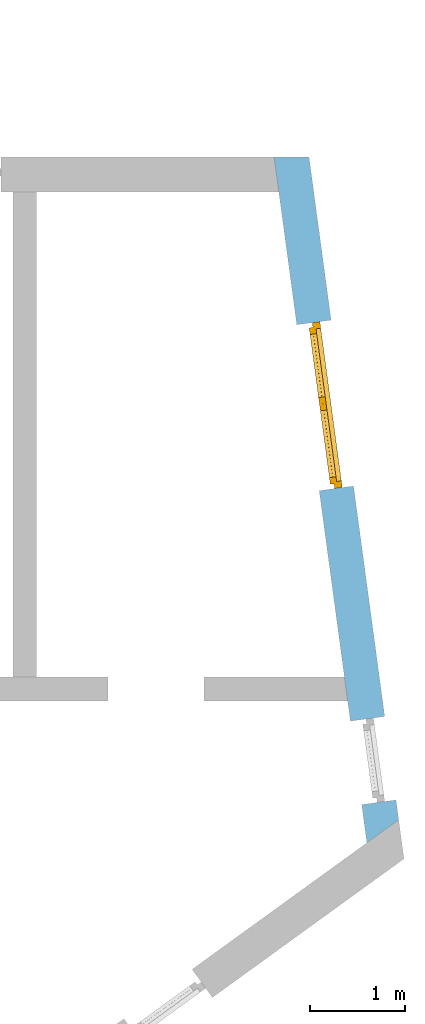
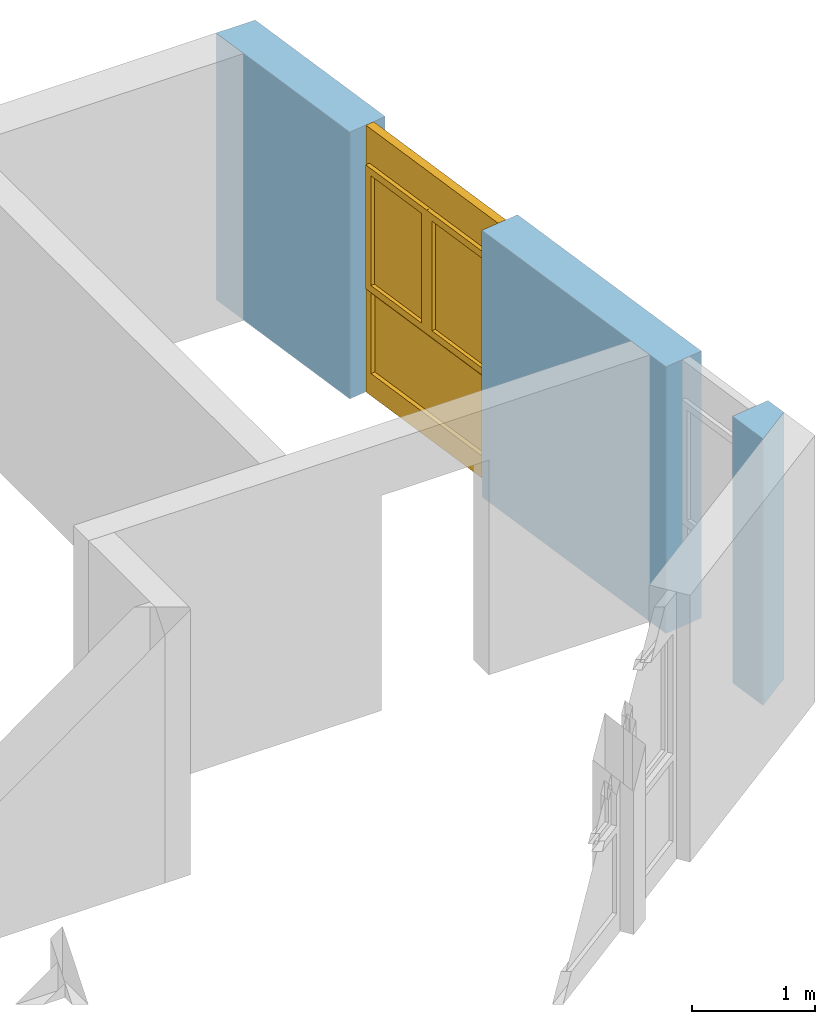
# One storey, part 40 of 42: 1 window, 2 openings, plus 1 element that does not belong to this part.
"""IFC2X3 building model written with IfcOpenShell, lengths in millimetres."""

from ifc_helpers import new_model, entity, si_unit, converted_unit, frame, frame_2d, origin, origin_with_axes, place, context, subcontext, project, spatial, polyline, rectangle, outline, extrude, faceted_brep, material, layer, layer_set, layer_usage, type_object, element, fill, save


model = new_model("IFC2X3")

# Units and contexts
model_context = context("Model", 3, precision=1e-05, world=origin())
body_context = subcontext(model_context, "Body", "Model", "MODEL_VIEW")
ifc_project = project(units=[si_unit("LENGTHUNIT", "METRE", prefix="MILLI"), converted_unit("PLANEANGLEUNIT", "DEGREE", entity("IfcPlaneAngleMeasure", 0.0174532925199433), si_unit("PLANEANGLEUNIT", "RADIAN"), dimensions=[0, 0, 0, 0, 0, 0, 0]), si_unit("AREAUNIT", "SQUARE_METRE"), si_unit("VOLUMEUNIT", "CUBIC_METRE")], contexts=[model_context])

# Building, storey
building_placement = place(None, origin())
building = spatial("IfcBuilding", under=ifc_project, at=building_placement, Name="Gebäude", CompositionType="ELEMENT")
storey_placement = place(building_placement, frame((0.0, 0.0, 2730.0), z_axis=(0.0, 0.0, 1.0), x_axis=(1.0, 0.0, 0.0)))
storey = spatial("IfcBuildingStorey", under=building, at=storey_placement, Name="OG.- Grundriss", CompositionType="ELEMENT", Elevation=2730.0)

# Wall, openings, window
ifc_material_1 = material(Name="Poroton")
ifc_layer = layer(ifc_material_1, 365.0000000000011)
ifc_layer_set = layer_set([ifc_layer])
ifc_layer_usage = layer_usage(ifc_layer_set, "AXIS2", "POSITIVE", 0.0)
wall_placement = place(storey_placement, frame((185447.2761832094, 129305.31365621, 0.0), z_axis=(0.0, 0.0, 1.0), x_axis=(-0.1340451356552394, 0.9909752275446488, 0.0)))
wall = element("IfcWallStandardCase", 1, at=wall_placement, inside=storey, material=ifc_layer_usage, Name="<Unnamed Element>", context=body_context, shape_type="SweptSolid", body=[
    extrude(outline(polyline([(0.0, 0.0), (7033.045713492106, 1.13686837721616e-13), (7082.417759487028, 365.0000000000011), (-195.7205517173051, 364.9999999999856), (0.0, 0.0)])), origin_with_axes(), (0.0, 0.0, 1.0), 2650.0),
])
opening_1_placement = place(wall_placement, frame((3543.045713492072, 5.684341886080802e-12, 0.0), z_axis=(0.0, 1.0, 0.0), x_axis=(0.0, 0.0, 1.0)))
opening_1 = element("IfcOpeningElement", 2, at=opening_1_placement, cuts=wall, Name="Fensteröffnung", ObjectType="Opening", context=body_context, shape_type="SweptSolid", body=[
    extrude(rectangle(XDim=2650.0, YDim=1760.0, at=frame_2d((1325.0, 880.0), x_axis=(1.0, 0.0))), origin_with_axes(), (0.0, 0.0, 1.0), 365.0),
])
opening_2_placement = place(wall_placement, frame((210.8363435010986, 8.885336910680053e-12, 0.0), z_axis=(0.0, 1.0, 0.0), x_axis=(0.0, 0.0, 1.0)))
element("IfcOpeningElement", 3, at=opening_2_placement, cuts=wall, Name="Fensteröffnung", ObjectType="Opening", context=body_context, shape_type="SweptSolid", body=[
    extrude(rectangle(XDim=2650.0, YDim=885.0000000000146, at=frame_2d((1325.0, 442.5000000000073), x_axis=(1.0, 0.0))), origin_with_axes(), (0.0, 0.0, 1.0), 365.0),
])
ifc_material_2 = material()
window_style = type_object("IfcWindowStyle", Name="Fenster", ConstructionType="NOTDEFINED", OperationType="USERDEFINED", ParameterTakesPrecedence=False, Sizeable=False)
window_placement = place(opening_1_placement, frame((0.0, 0.0, 0.0), z_axis=(1.0, 0.0, 0.0), x_axis=(0.0, 1.0, 0.0)))
window = element("IfcWindow", 4, at=window_placement, inside=storey, type_object=window_style, material=ifc_material_2, Name="Fenster", OverallHeight=2650.0, OverallWidth=1760.0, context=body_context, shape_type="Brep", body=[
    faceted_brep([(1.243449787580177e-13, 200.0000000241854, 2650.0), (1.243449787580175e-13, 200.0000000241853, -2.449293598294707e-15), (69.99999999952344, 200.0000000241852, -2.449293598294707e-15), (69.99999999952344, 200.0000000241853, 2650.0), (0.0, 120.0000000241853, 2.449293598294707e-15), (2.429691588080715e-28, 120.0000000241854, 2650.0), (69.99999999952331, 120.0000000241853, 2650.0), (69.99999999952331, 120.0000000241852, 2.449293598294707e-15), (1.243449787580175e-13, 200.0000000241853, -2.449293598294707e-15), (1.243449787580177e-13, 200.0000000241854, 2650.0), (2.429691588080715e-28, 120.0000000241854, 2650.0), (0.0, 120.0000000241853, 2.449293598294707e-15), (69.99999999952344, 200.0000000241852, -2.449293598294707e-15), (1.243449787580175e-13, 200.0000000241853, -2.449293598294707e-15), (0.0, 120.0000000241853, 2.449293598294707e-15), (69.99999999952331, 120.0000000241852, 2.449293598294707e-15), (69.99999999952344, 200.0000000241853, 2650.0), (69.99999999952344, 200.0000000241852, -2.449293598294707e-15), (69.99999999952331, 120.0000000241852, 2.449293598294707e-15), (69.99999999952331, 120.0000000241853, 2650.0), (1.243449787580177e-13, 200.0000000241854, 2650.0), (69.99999999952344, 200.0000000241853, 2650.0), (69.99999999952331, 120.0000000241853, 2650.0), (2.429691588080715e-28, 120.0000000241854, 2650.0)], [[[0, 1, 2, 3]], [[4, 5, 6, 7]], [[8, 9, 10, 11]], [[12, 13, 14, 15]], [[16, 17, 18, 19]], [[20, 21, 22, 23]]], orient=[[False], [False], [False], [False], [False], [False]]),
    faceted_brep([(1690.000000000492, 200.0000000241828, 2650.0), (1690.000000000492, 200.0000000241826, -2.449293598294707e-15), (1760.000000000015, 200.0000000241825, -2.449293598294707e-15), (1760.000000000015, 200.0000000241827, 2650.0), (1690.000000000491, 120.0000000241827, 2.449293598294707e-15), (1690.000000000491, 120.0000000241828, 2650.0), (1760.000000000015, 120.0000000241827, 2650.0), (1760.000000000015, 120.0000000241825, 2.449293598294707e-15), (1690.000000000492, 200.0000000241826, -2.449293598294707e-15), (1690.000000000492, 200.0000000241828, 2650.0), (1690.000000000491, 120.0000000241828, 2650.0), (1690.000000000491, 120.0000000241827, 2.449293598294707e-15), (1760.000000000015, 200.0000000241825, -2.449293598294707e-15), (1690.000000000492, 200.0000000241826, -2.449293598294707e-15), (1690.000000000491, 120.0000000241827, 2.449293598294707e-15), (1760.000000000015, 120.0000000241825, 2.449293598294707e-15), (1760.000000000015, 200.0000000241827, 2650.0), (1760.000000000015, 200.0000000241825, -2.449293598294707e-15), (1760.000000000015, 120.0000000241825, 2.449293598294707e-15), (1760.000000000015, 120.0000000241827, 2650.0), (1690.000000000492, 200.0000000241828, 2650.0), (1760.000000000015, 200.0000000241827, 2650.0), (1760.000000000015, 120.0000000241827, 2650.0), (1690.000000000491, 120.0000000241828, 2650.0)], [[[0, 1, 2, 3]], [[4, 5, 6, 7]], [[8, 9, 10, 11]], [[12, 13, 14, 15]], [[16, 17, 18, 19]], [[20, 21, 22, 23]]], orient=[[False], [False], [False], [False], [False], [False]]),
    faceted_brep([(69.99999999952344, 200.0000000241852, 220.0), (69.99999999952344, 200.0000000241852, -2.449293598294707e-15), (1690.000000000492, 200.0000000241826, -2.449293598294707e-15), (1690.000000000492, 200.0000000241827, 220.0), (69.99999999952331, 120.0000000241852, 2.449293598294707e-15), (69.99999999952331, 120.0000000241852, 220.0), (1690.000000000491, 120.0000000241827, 220.0), (1690.000000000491, 120.0000000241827, 2.449293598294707e-15), (69.99999999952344, 200.0000000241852, -2.449293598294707e-15), (69.99999999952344, 200.0000000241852, 220.0), (69.99999999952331, 120.0000000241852, 220.0), (69.99999999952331, 120.0000000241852, 2.449293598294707e-15), (1690.000000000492, 200.0000000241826, -2.449293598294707e-15), (69.99999999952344, 200.0000000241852, -2.449293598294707e-15), (69.99999999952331, 120.0000000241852, 2.449293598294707e-15), (1690.000000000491, 120.0000000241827, 2.449293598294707e-15), (1690.000000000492, 200.0000000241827, 220.0), (1690.000000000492, 200.0000000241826, -2.449293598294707e-15), (1690.000000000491, 120.0000000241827, 2.449293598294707e-15), (1690.000000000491, 120.0000000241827, 220.0), (69.99999999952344, 200.0000000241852, 220.0), (1690.000000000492, 200.0000000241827, 220.0), (1690.000000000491, 120.0000000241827, 220.0), (69.99999999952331, 120.0000000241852, 220.0)], [[[0, 1, 2, 3]], [[4, 5, 6, 7]], [[8, 9, 10, 11]], [[12, 13, 14, 15]], [[16, 17, 18, 19]], [[20, 21, 22, 23]]], orient=[[False], [False], [False], [False], [False], [False]]),
    faceted_brep([(69.99999999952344, 200.0000000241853, 2650.0), (69.99999999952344, 200.0000000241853, 2280.0), (1690.000000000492, 200.0000000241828, 2280.0), (1690.000000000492, 200.0000000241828, 2650.0), (69.99999999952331, 120.0000000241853, 2280.0), (69.99999999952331, 120.0000000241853, 2650.0), (1690.000000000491, 120.0000000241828, 2650.0), (1690.000000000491, 120.0000000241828, 2280.0), (69.99999999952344, 200.0000000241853, 2280.0), (69.99999999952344, 200.0000000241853, 2650.0), (69.99999999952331, 120.0000000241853, 2650.0), (69.99999999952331, 120.0000000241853, 2280.0), (1690.000000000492, 200.0000000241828, 2280.0), (69.99999999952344, 200.0000000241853, 2280.0), (69.99999999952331, 120.0000000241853, 2280.0), (1690.000000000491, 120.0000000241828, 2280.0), (1690.000000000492, 200.0000000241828, 2650.0), (1690.000000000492, 200.0000000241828, 2280.0), (1690.000000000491, 120.0000000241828, 2280.0), (1690.000000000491, 120.0000000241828, 2650.0), (69.99999999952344, 200.0000000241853, 2650.0), (1690.000000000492, 200.0000000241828, 2650.0), (1690.000000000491, 120.0000000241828, 2650.0), (69.99999999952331, 120.0000000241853, 2650.0)], [[[0, 1, 2, 3]], [[4, 5, 6, 7]], [[8, 9, 10, 11]], [[12, 13, 14, 15]], [[16, 17, 18, 19]], [[20, 21, 22, 23]]], orient=[[False], [False], [False], [False], [False], [False]]),
    faceted_brep([(69.99999999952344, 200.0000000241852, 1090.0), (69.99999999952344, 200.0000000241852, 1020.0), (1690.000000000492, 200.0000000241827, 1020.0), (1690.000000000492, 200.0000000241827, 1090.0), (69.99999999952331, 120.0000000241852, 1020.0), (69.99999999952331, 120.0000000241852, 1090.0), (1690.000000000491, 120.0000000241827, 1090.0), (1690.000000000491, 120.0000000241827, 1020.0), (69.99999999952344, 200.0000000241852, 1020.0), (69.99999999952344, 200.0000000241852, 1090.0), (69.99999999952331, 120.0000000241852, 1090.0), (69.99999999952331, 120.0000000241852, 1020.0), (1690.000000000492, 200.0000000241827, 1020.0), (69.99999999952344, 200.0000000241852, 1020.0), (69.99999999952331, 120.0000000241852, 1020.0), (1690.000000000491, 120.0000000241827, 1020.0), (1690.000000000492, 200.0000000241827, 1090.0), (1690.000000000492, 200.0000000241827, 1020.0), (1690.000000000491, 120.0000000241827, 1020.0), (1690.000000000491, 120.0000000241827, 1090.0), (69.99999999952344, 200.0000000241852, 1090.0), (1690.000000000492, 200.0000000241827, 1090.0), (1690.000000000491, 120.0000000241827, 1090.0), (69.99999999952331, 120.0000000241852, 1090.0)], [[[0, 1, 2, 3]], [[4, 5, 6, 7]], [[8, 9, 10, 11]], [[12, 13, 14, 15]], [[16, 17, 18, 19]], [[20, 21, 22, 23]]], orient=[[False], [False], [False], [False], [False], [False]]),
    faceted_brep([(69.99999999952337, 160.0000000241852, 220.0), (1690.000000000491, 160.0000000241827, 220.0), (1690.000000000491, 160.0000000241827, 1020.0), (69.99999999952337, 160.0000000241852, 1020.0), (69.99999999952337, 159.0000000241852, 220.0), (69.99999999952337, 159.0000000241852, 1020.0), (1690.000000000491, 159.0000000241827, 1020.0), (1690.000000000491, 159.0000000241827, 220.0), (69.99999999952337, 160.0000000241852, 220.0), (69.99999999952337, 159.0000000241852, 220.0), (1690.000000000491, 159.0000000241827, 220.0), (1690.000000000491, 160.0000000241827, 220.0), (1690.000000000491, 160.0000000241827, 220.0), (1690.000000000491, 159.0000000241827, 220.0), (1690.000000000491, 159.0000000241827, 1020.0), (1690.000000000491, 160.0000000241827, 1020.0), (1690.000000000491, 160.0000000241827, 1020.0), (1690.000000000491, 159.0000000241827, 1020.0), (69.99999999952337, 159.0000000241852, 1020.0), (69.99999999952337, 160.0000000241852, 1020.0), (69.99999999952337, 160.0000000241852, 1020.0), (69.99999999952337, 159.0000000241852, 1020.0), (69.99999999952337, 159.0000000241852, 220.0), (69.99999999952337, 160.0000000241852, 220.0)], [[[0, 1, 2, 3]], [[4, 5, 6, 7]], [[8, 9, 10, 11]], [[12, 13, 14, 15]], [[16, 17, 18, 19]], [[20, 21, 22, 23]]], orient=[[False], [False], [False], [False], [False], [False]]),
    faceted_brep([(49.99999999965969, 240.0000000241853, 2300.0), (49.99999999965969, 240.0000000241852, 1070.0), (119.999999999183, 240.0000000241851, 1070.0), (119.999999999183, 240.0000000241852, 2300.0), (49.99999999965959, 170.0000000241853, 1070.0), (49.99999999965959, 170.0000000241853, 2300.0), (119.9999999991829, 170.0000000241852, 2300.0), (119.9999999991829, 170.0000000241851, 1070.0), (49.99999999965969, 240.0000000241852, 1070.0), (49.99999999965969, 240.0000000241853, 2300.0), (49.99999999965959, 170.0000000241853, 2300.0), (49.99999999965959, 170.0000000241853, 1070.0), (119.999999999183, 240.0000000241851, 1070.0), (49.99999999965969, 240.0000000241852, 1070.0), (49.99999999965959, 170.0000000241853, 1070.0), (119.9999999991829, 170.0000000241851, 1070.0), (119.999999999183, 240.0000000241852, 2300.0), (119.999999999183, 240.0000000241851, 1070.0), (119.9999999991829, 170.0000000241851, 1070.0), (119.9999999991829, 170.0000000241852, 2300.0), (49.99999999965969, 240.0000000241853, 2300.0), (119.999999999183, 240.0000000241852, 2300.0), (119.9999999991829, 170.0000000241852, 2300.0), (49.99999999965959, 170.0000000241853, 2300.0)], [[[0, 1, 2, 3]], [[4, 5, 6, 7]], [[8, 9, 10, 11]], [[12, 13, 14, 15]], [[16, 17, 18, 19]], [[20, 21, 22, 23]]], orient=[[False], [False], [False], [False], [False], [False]]),
    faceted_brep([(829.5000000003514, 240.0000000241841, 2300.0), (829.5000000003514, 240.000000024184, 1070.0), (899.4999999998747, 240.0000000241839, 1070.0), (899.4999999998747, 240.000000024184, 2300.0), (829.5000000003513, 170.000000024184, 1070.0), (829.5000000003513, 170.0000000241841, 2300.0), (899.4999999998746, 170.000000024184, 2300.0), (899.4999999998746, 170.0000000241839, 1070.0), (829.5000000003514, 240.000000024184, 1070.0), (829.5000000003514, 240.0000000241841, 2300.0), (829.5000000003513, 170.0000000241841, 2300.0), (829.5000000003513, 170.000000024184, 1070.0), (899.4999999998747, 240.0000000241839, 1070.0), (829.5000000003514, 240.000000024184, 1070.0), (829.5000000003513, 170.000000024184, 1070.0), (899.4999999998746, 170.0000000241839, 1070.0), (899.4999999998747, 240.000000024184, 2300.0), (899.4999999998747, 240.0000000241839, 1070.0), (899.4999999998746, 170.0000000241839, 1070.0), (899.4999999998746, 170.000000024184, 2300.0), (829.5000000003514, 240.0000000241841, 2300.0), (899.4999999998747, 240.000000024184, 2300.0), (899.4999999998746, 170.000000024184, 2300.0), (829.5000000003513, 170.0000000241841, 2300.0)], [[[0, 1, 2, 3]], [[4, 5, 6, 7]], [[8, 9, 10, 11]], [[12, 13, 14, 15]], [[16, 17, 18, 19]], [[20, 21, 22, 23]]], orient=[[False], [False], [False], [False], [False], [False]]),
    faceted_brep([(119.999999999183, 240.0000000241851, 1140.0), (119.999999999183, 240.0000000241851, 1070.0), (829.5000000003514, 240.000000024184, 1070.0), (829.5000000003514, 240.000000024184, 1140.0), (119.9999999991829, 170.0000000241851, 1070.0), (119.9999999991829, 170.0000000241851, 1140.0), (829.5000000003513, 170.000000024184, 1140.0), (829.5000000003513, 170.000000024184, 1070.0), (119.999999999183, 240.0000000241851, 1070.0), (119.999999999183, 240.0000000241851, 1140.0), (119.9999999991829, 170.0000000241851, 1140.0), (119.9999999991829, 170.0000000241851, 1070.0), (829.5000000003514, 240.000000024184, 1070.0), (119.999999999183, 240.0000000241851, 1070.0), (119.9999999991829, 170.0000000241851, 1070.0), (829.5000000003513, 170.000000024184, 1070.0), (829.5000000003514, 240.000000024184, 1140.0), (829.5000000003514, 240.000000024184, 1070.0), (829.5000000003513, 170.000000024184, 1070.0), (829.5000000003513, 170.000000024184, 1140.0), (119.999999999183, 240.0000000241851, 1140.0), (829.5000000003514, 240.000000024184, 1140.0), (829.5000000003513, 170.000000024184, 1140.0), (119.9999999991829, 170.0000000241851, 1140.0)], [[[0, 1, 2, 3]], [[4, 5, 6, 7]], [[8, 9, 10, 11]], [[12, 13, 14, 15]], [[16, 17, 18, 19]], [[20, 21, 22, 23]]], orient=[[False], [False], [False], [False], [False], [False]]),
    faceted_brep([(119.999999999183, 240.0000000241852, 2300.0), (119.999999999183, 240.0000000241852, 2230.0), (829.5000000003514, 240.0000000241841, 2230.0), (829.5000000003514, 240.0000000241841, 2300.0), (119.9999999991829, 170.0000000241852, 2230.0), (119.9999999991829, 170.0000000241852, 2300.0), (829.5000000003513, 170.0000000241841, 2300.0), (829.5000000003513, 170.0000000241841, 2230.0), (119.999999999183, 240.0000000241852, 2230.0), (119.999999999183, 240.0000000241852, 2300.0), (119.9999999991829, 170.0000000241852, 2300.0), (119.9999999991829, 170.0000000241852, 2230.0), (829.5000000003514, 240.0000000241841, 2230.0), (119.999999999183, 240.0000000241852, 2230.0), (119.9999999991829, 170.0000000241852, 2230.0), (829.5000000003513, 170.0000000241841, 2230.0), (829.5000000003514, 240.0000000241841, 2300.0), (829.5000000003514, 240.0000000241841, 2230.0), (829.5000000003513, 170.0000000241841, 2230.0), (829.5000000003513, 170.0000000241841, 2300.0), (119.999999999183, 240.0000000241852, 2300.0), (829.5000000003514, 240.0000000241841, 2300.0), (829.5000000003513, 170.0000000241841, 2300.0), (119.9999999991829, 170.0000000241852, 2300.0)], [[[0, 1, 2, 3]], [[4, 5, 6, 7]], [[8, 9, 10, 11]], [[12, 13, 14, 15]], [[16, 17, 18, 19]], [[20, 21, 22, 23]]], orient=[[False], [False], [False], [False], [False], [False]]),
    faceted_brep([(900.499999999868, 240.000000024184, 2300.0), (900.499999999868, 240.0000000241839, 1070.0), (970.4999999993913, 240.0000000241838, 1070.0), (970.4999999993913, 240.0000000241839, 2300.0), (900.4999999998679, 170.0000000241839, 1070.0), (900.4999999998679, 170.000000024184, 2300.0), (970.4999999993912, 170.0000000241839, 2300.0), (970.4999999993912, 170.0000000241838, 1070.0), (900.499999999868, 240.0000000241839, 1070.0), (900.499999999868, 240.000000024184, 2300.0), (900.4999999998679, 170.000000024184, 2300.0), (900.4999999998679, 170.0000000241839, 1070.0), (970.4999999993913, 240.0000000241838, 1070.0), (900.499999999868, 240.0000000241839, 1070.0), (900.4999999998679, 170.0000000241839, 1070.0), (970.4999999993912, 170.0000000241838, 1070.0), (970.4999999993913, 240.0000000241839, 2300.0), (970.4999999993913, 240.0000000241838, 1070.0), (970.4999999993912, 170.0000000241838, 1070.0), (970.4999999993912, 170.0000000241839, 2300.0), (900.499999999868, 240.000000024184, 2300.0), (970.4999999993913, 240.0000000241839, 2300.0), (970.4999999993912, 170.0000000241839, 2300.0), (900.4999999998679, 170.000000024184, 2300.0)], [[[0, 1, 2, 3]], [[4, 5, 6, 7]], [[8, 9, 10, 11]], [[12, 13, 14, 15]], [[16, 17, 18, 19]], [[20, 21, 22, 23]]], orient=[[False], [False], [False], [False], [False], [False]]),
    faceted_brep([(1640.000000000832, 240.0000000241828, 2300.0), (1640.000000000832, 240.0000000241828, 1070.0), (1710.000000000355, 240.0000000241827, 1070.0), (1710.000000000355, 240.0000000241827, 2300.0), (1640.000000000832, 170.0000000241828, 1070.0), (1640.000000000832, 170.0000000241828, 2300.0), (1710.000000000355, 170.0000000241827, 2300.0), (1710.000000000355, 170.0000000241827, 1070.0), (1640.000000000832, 240.0000000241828, 1070.0), (1640.000000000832, 240.0000000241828, 2300.0), (1640.000000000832, 170.0000000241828, 2300.0), (1640.000000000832, 170.0000000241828, 1070.0), (1710.000000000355, 240.0000000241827, 1070.0), (1640.000000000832, 240.0000000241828, 1070.0), (1640.000000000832, 170.0000000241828, 1070.0), (1710.000000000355, 170.0000000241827, 1070.0), (1710.000000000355, 240.0000000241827, 2300.0), (1710.000000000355, 240.0000000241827, 1070.0), (1710.000000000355, 170.0000000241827, 1070.0), (1710.000000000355, 170.0000000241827, 2300.0), (1640.000000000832, 240.0000000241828, 2300.0), (1710.000000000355, 240.0000000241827, 2300.0), (1710.000000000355, 170.0000000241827, 2300.0), (1640.000000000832, 170.0000000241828, 2300.0)], [[[0, 1, 2, 3]], [[4, 5, 6, 7]], [[8, 9, 10, 11]], [[12, 13, 14, 15]], [[16, 17, 18, 19]], [[20, 21, 22, 23]]], orient=[[False], [False], [False], [False], [False], [False]]),
    faceted_brep([(970.4999999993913, 240.0000000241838, 1140.0), (970.4999999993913, 240.0000000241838, 1070.0), (1640.000000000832, 240.0000000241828, 1070.0), (1640.000000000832, 240.0000000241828, 1140.0), (970.4999999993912, 170.0000000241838, 1070.0), (970.4999999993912, 170.0000000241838, 1140.0), (1640.000000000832, 170.0000000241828, 1140.0), (1640.000000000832, 170.0000000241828, 1070.0), (970.4999999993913, 240.0000000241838, 1070.0), (970.4999999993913, 240.0000000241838, 1140.0), (970.4999999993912, 170.0000000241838, 1140.0), (970.4999999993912, 170.0000000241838, 1070.0), (1640.000000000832, 240.0000000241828, 1070.0), (970.4999999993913, 240.0000000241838, 1070.0), (970.4999999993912, 170.0000000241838, 1070.0), (1640.000000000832, 170.0000000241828, 1070.0), (1640.000000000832, 240.0000000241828, 1140.0), (1640.000000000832, 240.0000000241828, 1070.0), (1640.000000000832, 170.0000000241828, 1070.0), (1640.000000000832, 170.0000000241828, 1140.0), (970.4999999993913, 240.0000000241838, 1140.0), (1640.000000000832, 240.0000000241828, 1140.0), (1640.000000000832, 170.0000000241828, 1140.0), (970.4999999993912, 170.0000000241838, 1140.0)], [[[0, 1, 2, 3]], [[4, 5, 6, 7]], [[8, 9, 10, 11]], [[12, 13, 14, 15]], [[16, 17, 18, 19]], [[20, 21, 22, 23]]], orient=[[False], [False], [False], [False], [False], [False]]),
    faceted_brep([(970.4999999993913, 240.0000000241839, 2300.0), (970.4999999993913, 240.0000000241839, 2230.0), (1640.000000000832, 240.0000000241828, 2230.0), (1640.000000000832, 240.0000000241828, 2300.0), (970.4999999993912, 170.0000000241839, 2230.0), (970.4999999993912, 170.0000000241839, 2300.0), (1640.000000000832, 170.0000000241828, 2300.0), (1640.000000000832, 170.0000000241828, 2230.0), (970.4999999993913, 240.0000000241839, 2230.0), (970.4999999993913, 240.0000000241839, 2300.0), (970.4999999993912, 170.0000000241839, 2300.0), (970.4999999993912, 170.0000000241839, 2230.0), (1640.000000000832, 240.0000000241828, 2230.0), (970.4999999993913, 240.0000000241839, 2230.0), (970.4999999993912, 170.0000000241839, 2230.0), (1640.000000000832, 170.0000000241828, 2230.0), (1640.000000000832, 240.0000000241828, 2300.0), (1640.000000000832, 240.0000000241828, 2230.0), (1640.000000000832, 170.0000000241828, 2230.0), (1640.000000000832, 170.0000000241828, 2300.0), (970.4999999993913, 240.0000000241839, 2300.0), (1640.000000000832, 240.0000000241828, 2300.0), (1640.000000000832, 170.0000000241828, 2300.0), (970.4999999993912, 170.0000000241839, 2300.0)], [[[0, 1, 2, 3]], [[4, 5, 6, 7]], [[8, 9, 10, 11]], [[12, 13, 14, 15]], [[16, 17, 18, 19]], [[20, 21, 22, 23]]], orient=[[False], [False], [False], [False], [False], [False]]),
    faceted_brep([(119.999999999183, 205.0000000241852, 1140.0), (829.5000000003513, 205.0000000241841, 1140.0), (829.5000000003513, 205.0000000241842, 2230.0), (119.999999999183, 205.0000000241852, 2230.0), (119.999999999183, 204.0000000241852, 1140.0), (119.999999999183, 204.0000000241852, 2230.0), (829.5000000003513, 204.0000000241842, 2230.0), (829.5000000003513, 204.0000000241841, 1140.0), (119.999999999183, 205.0000000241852, 1140.0), (119.999999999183, 204.0000000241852, 1140.0), (829.5000000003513, 204.0000000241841, 1140.0), (829.5000000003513, 205.0000000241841, 1140.0), (829.5000000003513, 205.0000000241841, 1140.0), (829.5000000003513, 204.0000000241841, 1140.0), (829.5000000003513, 204.0000000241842, 2230.0), (829.5000000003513, 205.0000000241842, 2230.0), (829.5000000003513, 205.0000000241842, 2230.0), (829.5000000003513, 204.0000000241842, 2230.0), (119.999999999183, 204.0000000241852, 2230.0), (119.999999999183, 205.0000000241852, 2230.0), (119.999999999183, 205.0000000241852, 2230.0), (119.999999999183, 204.0000000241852, 2230.0), (119.999999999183, 204.0000000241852, 1140.0), (119.999999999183, 205.0000000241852, 1140.0)], [[[0, 1, 2, 3]], [[4, 5, 6, 7]], [[8, 9, 10, 11]], [[12, 13, 14, 15]], [[16, 17, 18, 19]], [[20, 21, 22, 23]]], orient=[[False], [False], [False], [False], [False], [False]]),
    faceted_brep([(970.4999999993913, 205.0000000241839, 1140.0), (1640.000000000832, 205.0000000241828, 1140.0), (1640.000000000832, 205.0000000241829, 2230.0), (970.4999999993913, 205.0000000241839, 2230.0), (970.4999999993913, 204.0000000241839, 1140.0), (970.4999999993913, 204.0000000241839, 2230.0), (1640.000000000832, 204.0000000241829, 2230.0), (1640.000000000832, 204.0000000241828, 1140.0), (970.4999999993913, 205.0000000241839, 1140.0), (970.4999999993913, 204.0000000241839, 1140.0), (1640.000000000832, 204.0000000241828, 1140.0), (1640.000000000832, 205.0000000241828, 1140.0), (1640.000000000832, 205.0000000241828, 1140.0), (1640.000000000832, 204.0000000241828, 1140.0), (1640.000000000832, 204.0000000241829, 2230.0), (1640.000000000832, 205.0000000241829, 2230.0), (1640.000000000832, 205.0000000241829, 2230.0), (1640.000000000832, 204.0000000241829, 2230.0), (970.4999999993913, 204.0000000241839, 2230.0), (970.4999999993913, 205.0000000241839, 2230.0), (970.4999999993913, 205.0000000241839, 2230.0), (970.4999999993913, 204.0000000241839, 2230.0), (970.4999999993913, 204.0000000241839, 1140.0), (970.4999999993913, 205.0000000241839, 1140.0)], [[[0, 1, 2, 3]], [[4, 5, 6, 7]], [[8, 9, 10, 11]], [[12, 13, 14, 15]], [[16, 17, 18, 19]], [[20, 21, 22, 23]]], orient=[[False], [False], [False], [False], [False], [False]]),
])
fill(opening_1, window)

save(model, "model.ifc")
